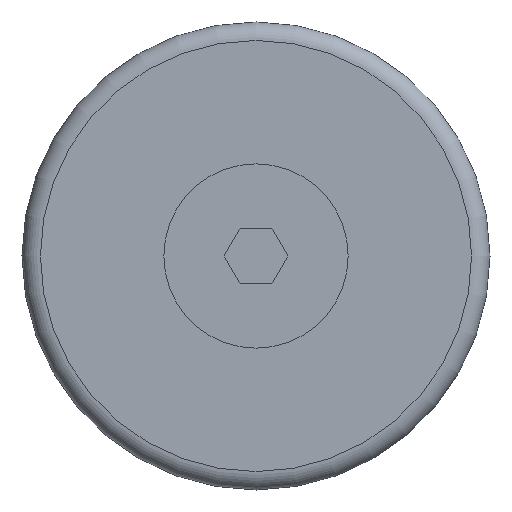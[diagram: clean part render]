
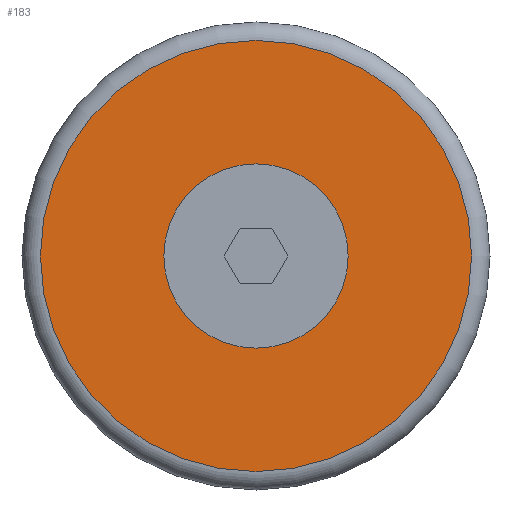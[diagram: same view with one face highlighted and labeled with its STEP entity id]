
A CAD part, front view. The second image highlights one B-rep face of the part: STEP entity #183.
In plain terms, the highlighted planar face has unit normal (0, -1, 0).
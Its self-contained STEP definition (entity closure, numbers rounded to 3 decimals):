
#183=ADVANCED_FACE('',(#259,#260),#261,.F.);
#259=FACE_BOUND('',#383,.T.);
#260=FACE_OUTER_BOUND('',#384,.T.);
#261=PLANE('',#385);
#383=EDGE_LOOP('',(#546));
#384=EDGE_LOOP('',(#547));
#385=AXIS2_PLACEMENT_3D('',#548,#549,#550);
#546=ORIENTED_EDGE('',*,*,#849,.F.);
#547=ORIENTED_EDGE('',*,*,#848,.T.);
#548=CARTESIAN_POINT('',(-5.85,-9.46,0.));
#549=DIRECTION('',(0.0,1.0,0.0));
#550=DIRECTION('',(0.0,0.0,1.0));
#848=EDGE_CURVE('',#972,#972,#973,.T.);
#849=EDGE_CURVE('',#974,#974,#975,.T.);
#972=VERTEX_POINT('',#1152);
#973=CIRCLE('',#1153,5.85);
#974=VERTEX_POINT('',#1154);
#975=CIRCLE('',#1155,2.5);
#1152=CARTESIAN_POINT('',(0.0,-9.46,-5.85));
#1153=AXIS2_PLACEMENT_3D('',#1434,#1435,#1436);
#1154=CARTESIAN_POINT('',(0.0,-9.46,-2.5));
#1155=AXIS2_PLACEMENT_3D('',#1437,#1438,#1439);
#1434=CARTESIAN_POINT('',(0.0,-9.46,0.));
#1435=DIRECTION('',(0.0,-1.0,0.0));
#1436=DIRECTION('',(0.0,0.0,-1.0));
#1437=CARTESIAN_POINT('',(0.0,-9.46,0.));
#1438=DIRECTION('',(0.0,-1.0,0.0));
#1439=DIRECTION('',(0.0,0.0,-1.0));
